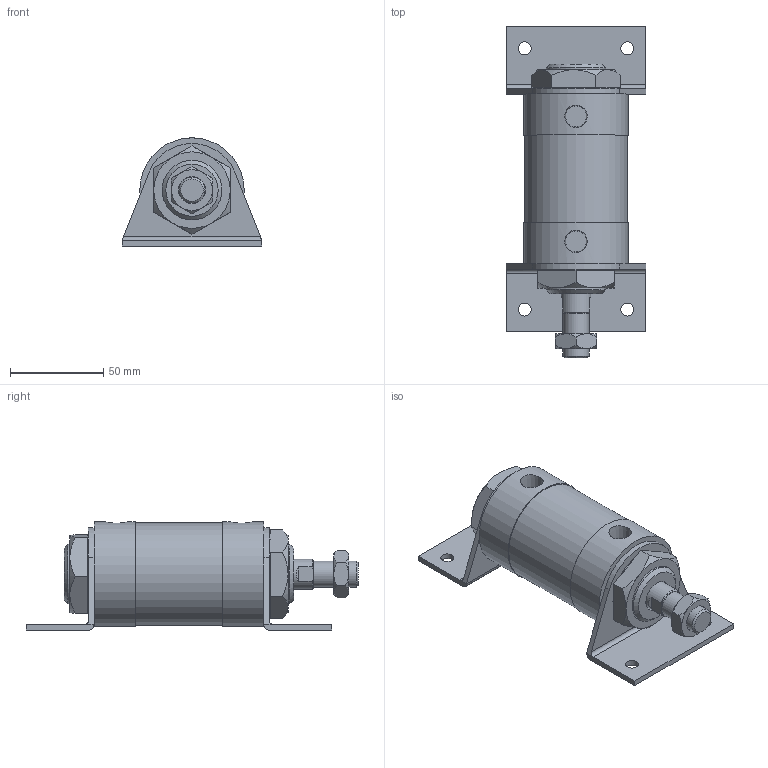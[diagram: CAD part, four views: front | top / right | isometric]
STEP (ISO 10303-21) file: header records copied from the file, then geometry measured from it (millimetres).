
FILE_DESCRIPTION(/* description */ ('Unknown'),/* implementation_level */ '2;1');
FILE_NAME(/* name */ 'WK50-LB',/* time_stamp */ '2026-07-17T16:35:39+08:00',/* author */ ('Unknown'),/* organization */ ('Unknown'),/* preprocessor_version */ 'ST-DEVELOPER v16.7',/* originating_system */ 'DEX',/* authorisation */ $);
FILE_SCHEMA (('CONFIG_CONTROL_DESIGN'));
Length unit declared in the file: millimetre
Products named in the file (8): WK50-LB; WK50_玡嶈搵; WK50_後; WK50_鋁; WK50_､ﾟｶbｬ｡; M14-1.5P-8_螺; WK40_WK50_LB; M32-2.0P-10_螺
Assembly tree (9 placements, depth 2):
  WK50-LB
    WK50_玡嶈搵
    WK50_後
    WK50_鋁
    WK50_､ﾟｶbｬ｡
    M14-1.5P-8_螺
    WK40_WK50_LB  x2
    M32-2.0P-10_螺  x2
Bounding box: 75 x 178 x 58 mm (x, y, z)
Volume: 296940.2 mm3; surface area: 84569.9 mm2
Topology: 9 solids, 9 shells, 134 faces, 293 edges, 184 vertices
Faces by surface type: plane 75, cone 30, cylinder 29
Full cylindrical faces by diameter (mm): 7 x4, 12.5 x1, 14 x1, 16 x2, 30 x2, 32 x4, 41 x2, 49.5 x1, 50 x1, 52 x2, 55 x1, 56 x2
Entity records: 3143 total; most frequent: CARTESIAN_POINT 561, DIRECTION 410, ORIENTED_EDGE 314, AXIS2_PLACEMENT_3D 178, EDGE_CURVE 157, EDGE_LOOP 148, FACE_BOUND 148, VERTEX_POINT 115
